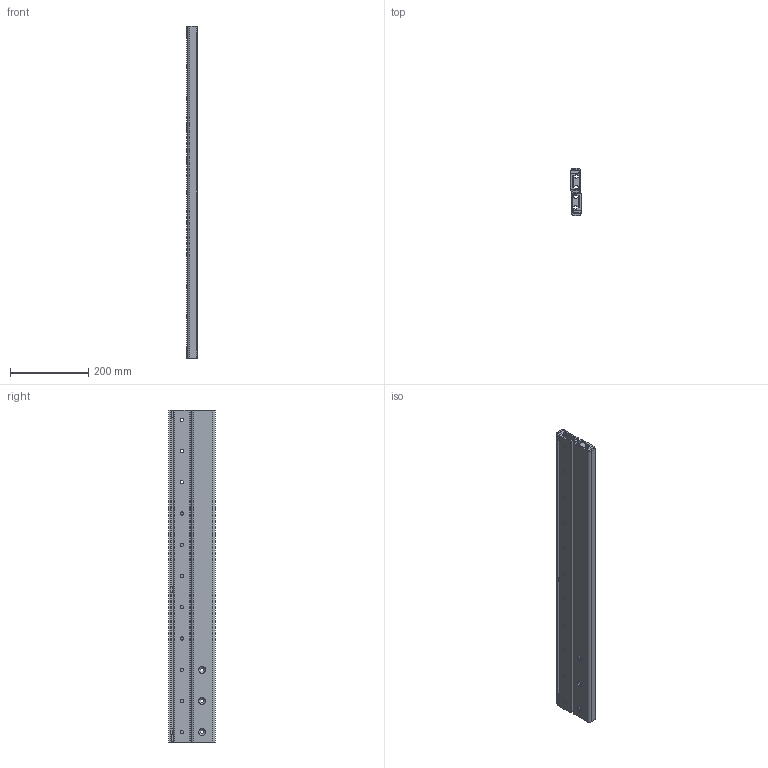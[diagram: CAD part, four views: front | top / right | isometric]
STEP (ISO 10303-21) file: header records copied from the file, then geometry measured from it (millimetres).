
FILE_DESCRIPTION(('STEP AP214'),'1');
FILE_NAME('rail_dss43-850_00.stp','2017-04-17T04:00:24',('TraceParts'),('TraceParts S.A.'),'Spatial InterOp 3D',' ',' ');
FILE_SCHEMA(('automotive_design'));
Length unit declared in the file: millimetre
Products named in the file (3): rail_dss43-850_00_1; rail_dss43-850_00_2; rail_dss43-850_00_3
Bounding box: 28 x 120 x 850 mm (x, y, z)
Volume: 1515476.7 mm3; surface area: 610098.8 mm2
Topology: 3 solids, 3 shells, 290 faces, 778 edges, 504 vertices
Faces by surface type: plane 138, cylinder 108, cone 44
Entity records: 9243 total; most frequent: DIRECTION 1640, CARTESIAN_POINT 1575, ORIENTED_EDGE 1556, EDGE_CURVE 778, AXIS2_PLACEMENT_3D 569, VERTEX_POINT 504, LINE 502, VECTOR 502
